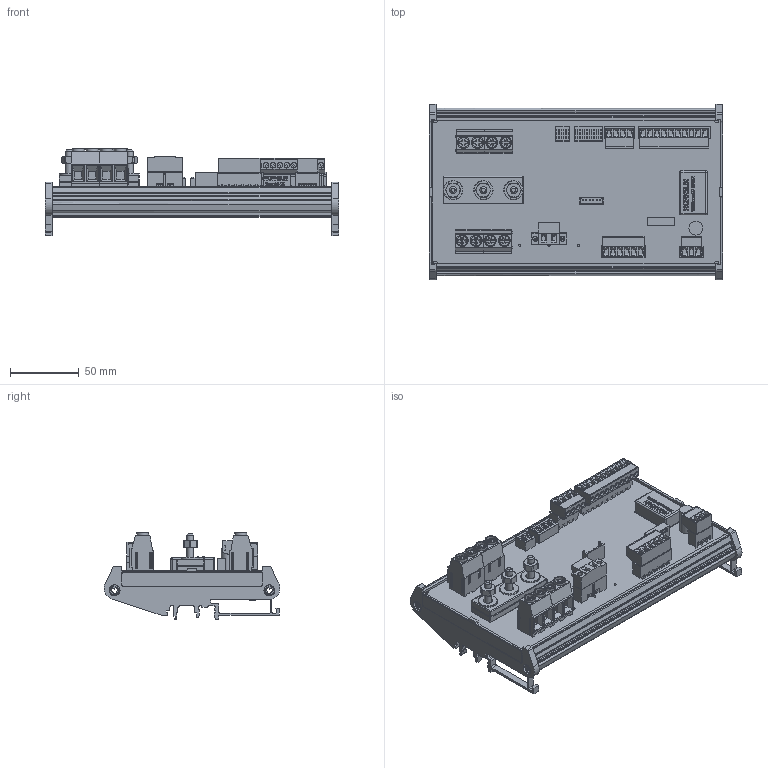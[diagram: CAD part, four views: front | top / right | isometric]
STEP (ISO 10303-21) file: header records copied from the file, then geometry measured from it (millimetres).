
FILE_DESCRIPTION(('FreeCAD Model'),'2;1');
FILE_NAME('C:/3D Files/Stringhe/ST2/ST20825/ST20825.step', '2021-02-19T15:03:49',('Author'),(''), 'Open CASCADE STEP processor 7.2','FreeCAD','Unknown');
FILE_SCHEMA(('AUTOMOTIVE_DESIGN { 1 0 10303 214 1 1 1 1 }'));
Length unit declared in the file: millimetre
Products named in the file (35): ST20825; AmpModu_6P_M; DipSwitch8; DipSwitch4; Stampato; Dado6MA004; Dado6MA005; Dado6MA006; Rondella007; Rondella008; Rondella009; CH_01-02; CH_03-04; CH_05-06; CH_07-08; CN3_M; Profilo_212.9x128; CN3_F; Mstb_4Pc_M; Mstb_4P_F; IB2405LS-1W; WRB2403ZP-6WR003; ELNA_470_uF_35_V; VTBSE-6x031; VTBSE-6x032; VTBSE-6x033; Barra_5.83_cm; Barra_5.83_cm001; Barra_5.83_cm002; Mstb_06Pc_M; Mstb_06P_F; Mstb_03P_F; Mstb_03Pc_M; Mstb_10P_F; Mstb_10Pc_M
Assembly tree (34 placements, depth 2):
  ST20825
    AmpModu_6P_M
    DipSwitch8
    DipSwitch4
    Stampato
    Dado6MA004
    Dado6MA005
    Dado6MA006
    Rondella007
    Rondella008
    Rondella009
    CH_01-02
    CH_03-04
    CH_05-06
    CH_07-08
    CN3_M
    Profilo_212.9x128
    CN3_F
    Mstb_4Pc_M
    Mstb_4P_F
    IB2405LS-1W
    WRB2403ZP-6WR003
    ELNA_470_uF_35_V
    VTBSE-6x031
    VTBSE-6x032
    VTBSE-6x033
    Barra_5.83_cm
    Barra_5.83_cm001
    Barra_5.83_cm002
    Mstb_06Pc_M
    Mstb_06P_F
    Mstb_03P_F
    Mstb_03Pc_M
    Mstb_10P_F
    Mstb_10Pc_M
Bounding box: 212.9 x 127.59 x 63.19 mm (x, y, z)
Volume: 211707.3 mm3; surface area: 226128.1 mm2
Topology: 58 solids, 97 shells, 4474 faces, 13943 edges, 14372 vertices
Faces by surface type: plane 3052, bspline 739, cylinder 479, cone 127, sphere 40, torus 35, extrusion 2
Full cylindrical faces by diameter (mm): 0.5 x4, 0.75 x36, 1 x10, 1.6 x25, 1.8 x2, 2.05 x2, 2.5 x2, 3.3 x2, 3.5 x2, 3.8 x2, 4 x27, 4.917 x3, 5 x6, 6.6 x3, 7 x9, 7.2 x8, 7.5 x8, 8.66 x8, 10 x4, 14 x3
Entity records: 354472 total; most frequent: CARTESIAN_POINT 89254, DIRECTION 38027, VECTOR 25969, LINE 25967, ORIENTED_EDGE 23935, PCURVE 23935, DEFINITIONAL_REPRESENTATION 23935, EDGE_CURVE 12330
